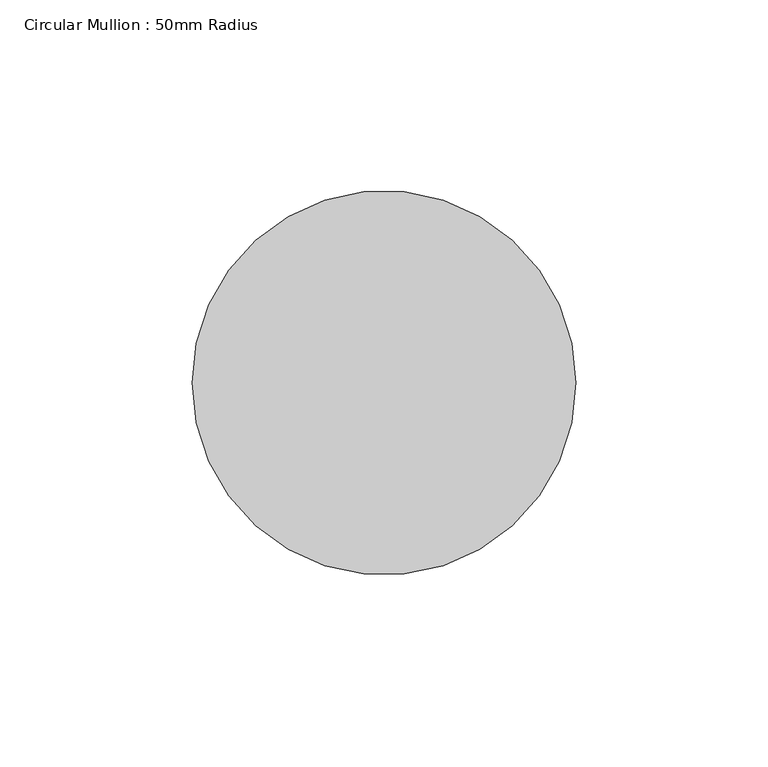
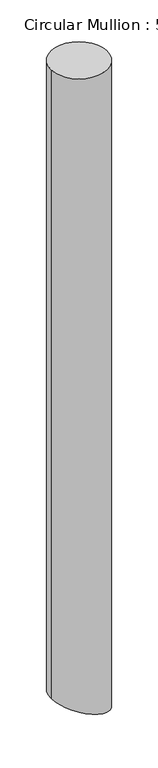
"""IFC4 building model written with IfcOpenShell, lengths in millimetres: member geometry, Circular Mullion : 50mm Radius."""

from ifc_helpers import new_model, si_unit, frame, origin, place, context, project, spatial, circle_curve, ellipse_curve, source, transform, mapped, element, save
from ifc_brep_helpers import plane_surface, cylinder_surface, advanced_brep


def circular_mullion_50mm_radius_106980f6(model_context):
    return source(origin(), model_context, "Body", "AdvancedBrep", [
        advanced_brep(
        [(0.0, 0.0, 0.0), (-100.0, 0.0, 0.0), (0.0, 0.0, -1216.1096997), (-100.0, 0.0, -1180.6978424)],
        [
            (0, 1, circle_curve(frame((-50.0, 0.0, 0.0), z_axis=(0.0, 0.0, 1.0), x_axis=(1.0, 0.0, 0.0)), 50.0)),
            (1, 0, circle_curve(frame((-50.0, 0.0, 0.0), z_axis=(0.0, 0.0, 1.0), x_axis=(1.0, 0.0, 0.0)), 50.0)),
            (0, 2),
            (2, 3, ellipse_curve(frame((-50.0, 0.0, -1198.4037711), z_axis=(0.33380685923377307, 0.0, 0.9426414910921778), x_axis=(-0.9426414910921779, 0.0, 0.33380685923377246)), 53.042435, 50.0)),
            (3, 1),
            (3, 2, ellipse_curve(frame((-50.0, 0.0, -1198.4037711), z_axis=(0.33380685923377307, 0.0, 0.9426414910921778), x_axis=(-0.9426414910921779, 0.0, 0.33380685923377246)), 53.042435, 50.0)),
        ],
        [
            plane_surface(frame((0.0, -100.0, 0.0), z_axis=(0.0, 0.0, 1.0), x_axis=(-1.0, 0.0, 0.0))),
            cylinder_surface(frame((-50.0, 0.0, 0.0), z_axis=(0.0, 0.0, 1.0), x_axis=(1.0, 0.0, 0.0)), 50.0),
            plane_surface(frame((0.0, -304.8, -1216.1096997), z_axis=(-0.33380685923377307, 0.0, -0.9426414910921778), x_axis=(-0.9426414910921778, 0.0, 0.33380685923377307))),
        ],
        [
            (0, [[1, 2]]),
            (1, [[-1, 3, 4, 5]]),
            (1, [[-2, -5, 6, -3]]),
            (2, [[-6, -4]]),
        ],
    ),
    ])


if __name__ == "__main__":
    model = new_model("IFC4")
    model_context = context("Model", 3, world=origin())
    ifc_project = project(units=[si_unit("LENGTHUNIT", "METRE", prefix="MILLI")], contexts=[model_context])
    site = spatial("IfcSite", under=ifc_project)
    building = spatial("IfcBuilding", under=site)
    placement = place(None, origin())
    circular_mullion_50mm_radius_shape = circular_mullion_50mm_radius_106980f6(model_context)
    element("IfcMember", 1, ObjectType="Circular Mullion : 50mm Radius", at=placement, inside=building, context=model_context, shape_type="MappedRepresentation", body=[
        mapped(circular_mullion_50mm_radius_shape, transform((0.0, 0.0, 0.0), x_axis=(1.0, 0.0, 0.0), y_axis=(0.0, 1.0, 0.0), z_axis=(0.0, 0.0, 1.0))),
    ])
    save(model, "model.ifc")
